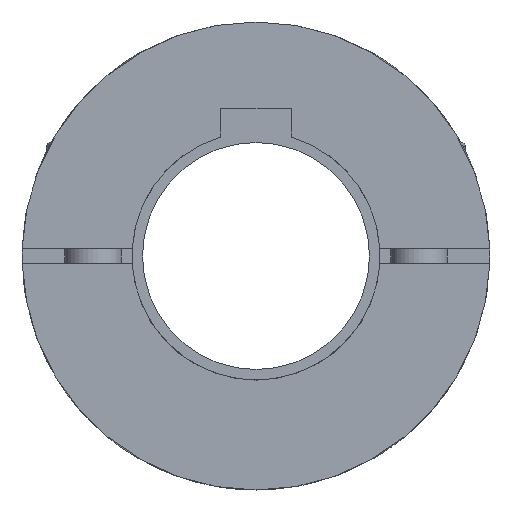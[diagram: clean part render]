
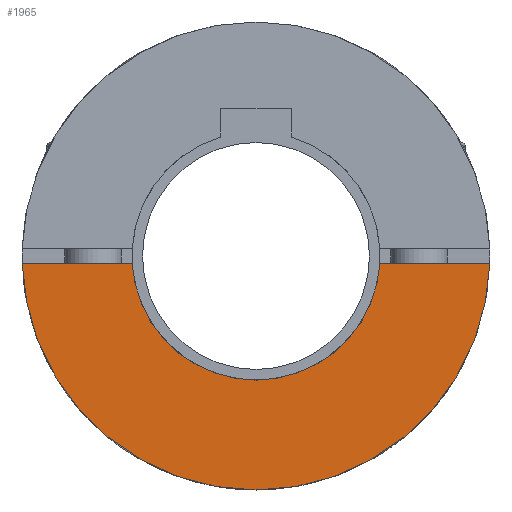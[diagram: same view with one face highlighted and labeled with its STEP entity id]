
A CAD part, left-side view. The second image highlights one B-rep face of the part: STEP entity #1965.
In plain terms, the highlighted planar face has unit normal (-1, 0, 0).
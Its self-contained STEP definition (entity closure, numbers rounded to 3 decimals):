
#26=PLANE('',#2226);
#199=LINE('',#3616,#342);
#202=LINE('',#3622,#345);
#342=VECTOR('',#2699,27.069);
#345=VECTOR('',#2704,27.069);
#507=FACE_OUTER_BOUND('',#635,.T.);
#635=EDGE_LOOP('',(#1605,#1606,#1607,#1608));
#855=CIRCLE('',#2213,17.5);
#857=CIRCLE('',#2227,33.);
#989=VERTEX_POINT('',#3569);
#990=VERTEX_POINT('',#3570);
#1001=VERTEX_POINT('',#3615);
#1003=VERTEX_POINT('',#3621);
#1221=EDGE_CURVE('',#989,#990,#855,.T.);
#1244=EDGE_CURVE('',#1001,#989,#199,.T.);
#1247=EDGE_CURVE('',#1003,#990,#202,.T.);
#1248=EDGE_CURVE('',#1003,#1001,#857,.T.);
#1605=ORIENTED_EDGE('',*,*,#1221,.T.);
#1606=ORIENTED_EDGE('',*,*,#1247,.F.);
#1607=ORIENTED_EDGE('',*,*,#1248,.T.);
#1608=ORIENTED_EDGE('',*,*,#1244,.T.);
#1965=ADVANCED_FACE('',(#507),#26,.T.);
#2213=AXIS2_PLACEMENT_3D('',#3571,#2652,#2653);
#2226=AXIS2_PLACEMENT_3D('',#3620,#2702,#2703);
#2227=AXIS2_PLACEMENT_3D('',#3623,#2705,#2706);
#2652=DIRECTION('center_axis',(1.,0.,0.));
#2653=DIRECTION('ref_axis',(0.,0.,1.));
#2699=DIRECTION('',(0.,1.,0.));
#2702=DIRECTION('center_axis',(-1.,0.,0.));
#2703=DIRECTION('ref_axis',(0.,-1.,0.));
#2704=DIRECTION('',(0.,-1.,0.));
#2705=DIRECTION('center_axis',(-1.,0.,0.));
#2706=DIRECTION('ref_axis',(0.,1.,0.));
#3569=CARTESIAN_POINT('',(0.,-17.471,-1.));
#3570=CARTESIAN_POINT('',(0.,17.471,-1.));
#3571=CARTESIAN_POINT('Origin',(0.,0.,0.));
#3615=CARTESIAN_POINT('',(0.,-32.985,-1.));
#3616=CARTESIAN_POINT('',(0.,-32.985,-1.));
#3620=CARTESIAN_POINT('Origin',(0.,0.,-6.));
#3621=CARTESIAN_POINT('',(0.,32.985,-1.));
#3622=CARTESIAN_POINT('',(0.,32.985,-1.));
#3623=CARTESIAN_POINT('Origin',(0.,0.,0.));
